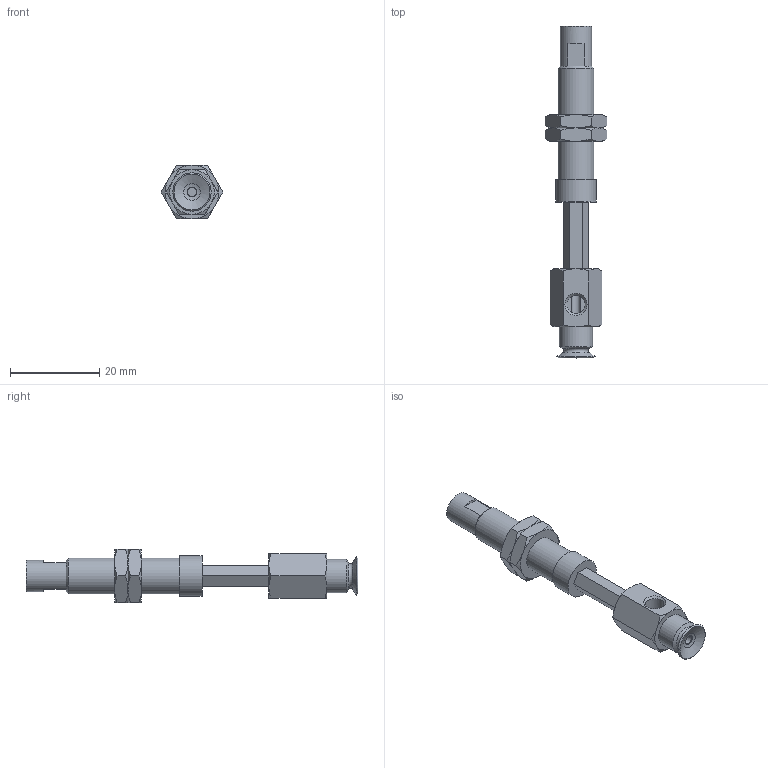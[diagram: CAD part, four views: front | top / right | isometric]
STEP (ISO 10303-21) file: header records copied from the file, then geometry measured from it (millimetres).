
FILE_DESCRIPTION(('STEP AP203'),'1');
FILE_NAME('.stp','2025-04-10T03:15:47',(' '),(' '),'Spatial InterOp 3D',' ',' ');
FILE_SCHEMA(('CONFIG_CONTROL_DESIGN'));
Length unit declared in the file: millimetre
Products named in the file (6): BNABPFYH-8A-15-※; CONNECTOR-H-8A-15; Nut-8A-15-h; NAPFTH-8A-15-FBODY; NAPFTH-8A-15-MBODY; BPFG-8A-※
Assembly tree (6 placements, depth 2):
  BNABPFYH-8A-15-※
    CONNECTOR-H-8A-15
    Nut-8A-15-h  x2
    NAPFTH-8A-15-FBODY
    NAPFTH-8A-15-MBODY
    BPFG-8A-※
Bounding box: 13.86 x 74.5 x 12 mm (x, y, z)
Volume: 3824.5 mm3; surface area: 4729.3 mm2
Topology: 6 solids, 6 shells, 139 faces, 302 edges, 183 vertices
Faces by surface type: plane 62, cone 51, cylinder 15, torus 10, bspline 1
Full cylindrical faces by diameter (mm): 2 x2, 4 x2, 4.134 x2, 5 x1, 6 x2, 7 x1, 7.188 x2, 7.5 x1, 8 x1, 9 x1
Entity records: 3467 total; most frequent: CARTESIAN_POINT 854, DIRECTION 478, ORIENTED_EDGE 418, EDGE_CURVE 209, AXIS2_PLACEMENT_3D 201, EDGE_LOOP 170, VERTEX_POINT 147, FACE_OUTER_BOUND 141
